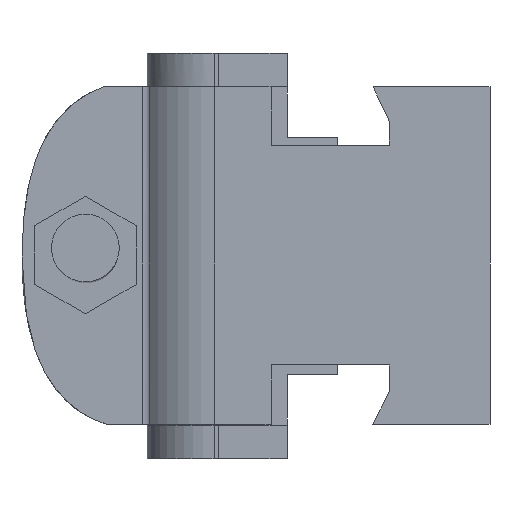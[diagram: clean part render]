
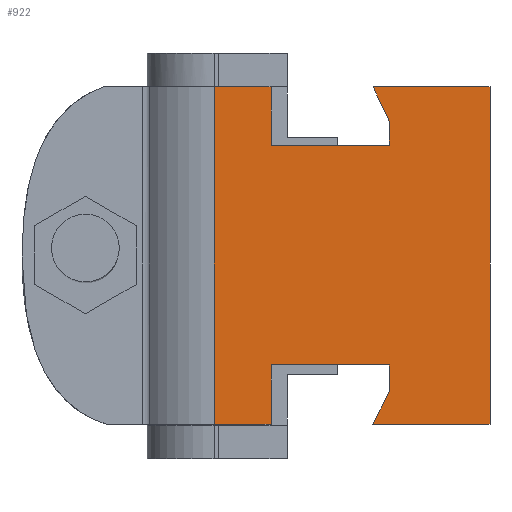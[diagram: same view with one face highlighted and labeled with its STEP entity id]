
A CAD part, left-side view. The second image highlights one B-rep face of the part: STEP entity #922.
In plain terms, the highlighted planar face has unit normal (-1, 0, 0).
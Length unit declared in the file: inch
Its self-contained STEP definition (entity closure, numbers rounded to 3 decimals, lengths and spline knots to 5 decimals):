
#614=EDGE_CURVE('',#1729,#1730,#1731,.T.);
#884=EDGE_CURVE('',#2182,#2183,#2184,.T.);
#922=ADVANCED_FACE('',(#2241),#2242,.T.);
#970=EDGE_CURVE('',#2309,#2231,#2310,.T.);
#1000=EDGE_CURVE('',#2025,#1717,#2349,.T.);
#1050=EDGE_CURVE('',#2412,#2244,#2413,.T.);
#1224=EDGE_CURVE('',#1785,#2528,#2648,.T.);
#1312=EDGE_CURVE('',#2763,#1785,#2764,.T.);
#1362=EDGE_CURVE('',#2231,#2415,#2827,.T.);
#1450=EDGE_CURVE('',#2183,#1729,#2930,.T.);
#1452=EDGE_CURVE('',#1730,#2309,#2932,.T.);
#1460=EDGE_CURVE('',#2244,#1717,#2942,.T.);
#1472=EDGE_CURVE('',#2528,#2412,#2956,.T.);
#1558=EDGE_CURVE('',#2415,#2763,#3056,.T.);
#1584=EDGE_CURVE('',#2025,#2182,#3084,.T.);
#1717=VERTEX_POINT('',#3228);
#1729=VERTEX_POINT('',#3273);
#1730=VERTEX_POINT('',#3274);
#1731=LINE('',#3275,#3276);
#1785=VERTEX_POINT('',#3354);
#2025=VERTEX_POINT('',#3750);
#2182=VERTEX_POINT('',#4258);
#2183=VERTEX_POINT('',#4259);
#2184=LINE('',#4260,#4261);
#2231=VERTEX_POINT('',#4343);
#2241=FACE_OUTER_BOUND('',#4361,.T.);
#2242=PLANE('',#4362);
#2244=VERTEX_POINT('',#4365);
#2309=VERTEX_POINT('',#4485);
#2310=LINE('',#4486,#4487);
#2349=LINE('',#4554,#4555);
#2412=VERTEX_POINT('',#4680);
#2413=LINE('',#4681,#4682);
#2415=VERTEX_POINT('',#4685);
#2528=VERTEX_POINT('',#4872);
#2648=LINE('',#5139,#5140);
#2763=VERTEX_POINT('',#5341);
#2764=LINE('',#5342,#5343);
#2827=LINE('',#5463,#5464);
#2930=LINE('',#5658,#5659);
#2932=LINE('',#5662,#5663);
#2942=LINE('',#5690,#5691);
#2956=LINE('',#5717,#5718);
#3056=LINE('',#6020,#6021);
#3084=LINE('',#6078,#6079);
#3228=CARTESIAN_POINT('',(0.,1.01969,1.25));
#3273=CARTESIAN_POINT('',(0.0,0.37156,0.22223));
#3274=CARTESIAN_POINT('',(0.0,0.37156,0.12269));
#3275=CARTESIAN_POINT('',(0.0,0.37156,0.08623));
#3276=VECTOR('',#6564,1.0);
#3354=CARTESIAN_POINT('',(0.0,0.37156,1.12269));
#3750=CARTESIAN_POINT('',(0.,1.01969,0.00373));
#4258=CARTESIAN_POINT('',(0.0,0.80906,0.00373));
#4259=CARTESIAN_POINT('',(0.0,0.80906,0.22223));
#4260=CARTESIAN_POINT('',(0.0,0.80906,0.05649));
#4261=VECTOR('',#6931,1.0);
#4343=CARTESIAN_POINT('',(0.,0.0,0.00373));
#4361=EDGE_LOOP('',(#6971,#6972,#6973,#6974,#6975,#6976,#6977,#6978,#6979,#6980,#6981,#6982,#6983,#6984));
#4362=AXIS2_PLACEMENT_3D('',#6985,#6986,#6987);
#4365=CARTESIAN_POINT('',(0.,0.80906,1.25));
#4485=CARTESIAN_POINT('',(0.0,0.43408,0.00373));
#4486=CARTESIAN_POINT('',(0.0,0.34841,0.00373));
#4487=VECTOR('',#7037,1.0);
#4554=CARTESIAN_POINT('',(0.,1.01969,0.0));
#4555=VECTOR('',#7082,1.0);
#4680=CARTESIAN_POINT('',(0.0,0.80906,1.03473));
#4681=CARTESIAN_POINT('',(0.0,0.80906,0.57212));
#4682=VECTOR('',#7145,1.0);
#4685=CARTESIAN_POINT('',(0.,0.0,1.25));
#4872=CARTESIAN_POINT('',(0.0,0.37156,1.03473));
#5139=CARTESIAN_POINT('',(0.0,0.37156,0.53936));
#5140=VECTOR('',#7413,1.0);
#5341=CARTESIAN_POINT('',(0.,0.4323,1.25));
#5342=CARTESIAN_POINT('',(0.0,0.18183,0.72509));
#5343=VECTOR('',#7600,1.0);
#5463=CARTESIAN_POINT('',(0.,0.0,0.0));
#5464=VECTOR('',#7703,1.0);
#5658=CARTESIAN_POINT('',(0.0,0.55008,0.22223));
#5659=VECTOR('',#7813,1.0);
#5662=CARTESIAN_POINT('',(0.0,0.42742,0.01641));
#5663=VECTOR('',#7814,1.0);
#5690=CARTESIAN_POINT('',(0.,0.0,1.25));
#5691=VECTOR('',#7826,1.0);
#5717=CARTESIAN_POINT('',(0.0,0.55008,1.03473));
#5718=VECTOR('',#7837,1.0);
#6020=CARTESIAN_POINT('',(0.,0.0,1.25));
#6021=VECTOR('',#7980,1.0);
#6078=CARTESIAN_POINT('',(0.0,0.8119,0.00373));
#6079=VECTOR('',#8004,1.0);
#6564=DIRECTION('',(-0.0,-0.0,-1.0));
#6931=DIRECTION('',(0.0,-0.0,1.0));
#6971=ORIENTED_EDGE('',*,*,#970,.T.);
#6972=ORIENTED_EDGE('',*,*,#1362,.T.);
#6973=ORIENTED_EDGE('',*,*,#1558,.T.);
#6974=ORIENTED_EDGE('',*,*,#1312,.T.);
#6975=ORIENTED_EDGE('',*,*,#1224,.T.);
#6976=ORIENTED_EDGE('',*,*,#1472,.T.);
#6977=ORIENTED_EDGE('',*,*,#1050,.T.);
#6978=ORIENTED_EDGE('',*,*,#1460,.T.);
#6979=ORIENTED_EDGE('',*,*,#1000,.F.);
#6980=ORIENTED_EDGE('',*,*,#1584,.T.);
#6981=ORIENTED_EDGE('',*,*,#884,.T.);
#6982=ORIENTED_EDGE('',*,*,#1450,.T.);
#6983=ORIENTED_EDGE('',*,*,#614,.T.);
#6984=ORIENTED_EDGE('',*,*,#1452,.T.);
#6985=CARTESIAN_POINT('',(0.,0.50985,0.0));
#6986=DIRECTION('',(-1.0,-0.0,0.0));
#6987=DIRECTION('',(0.0,-1.0,-0.0));
#7037=DIRECTION('',(-0.0,-1.0,0.0));
#7082=DIRECTION('',(0.0,0.0,1.0));
#7145=DIRECTION('',(0.0,-0.0,1.0));
#7413=DIRECTION('',(-0.0,-0.0,-1.0));
#7600=DIRECTION('',(-0.0,-0.431,-0.903));
#7703=DIRECTION('',(0.0,0.0,1.0));
#7813=DIRECTION('',(-0.0,-1.0,0.0));
#7814=DIRECTION('',(0.0,0.465,-0.885));
#7826=DIRECTION('',(0.0,1.0,0.0));
#7837=DIRECTION('',(0.0,1.0,-0.0));
#7980=DIRECTION('',(0.0,1.0,0.0));
#8004=DIRECTION('',(-0.0,-1.0,0.0));
